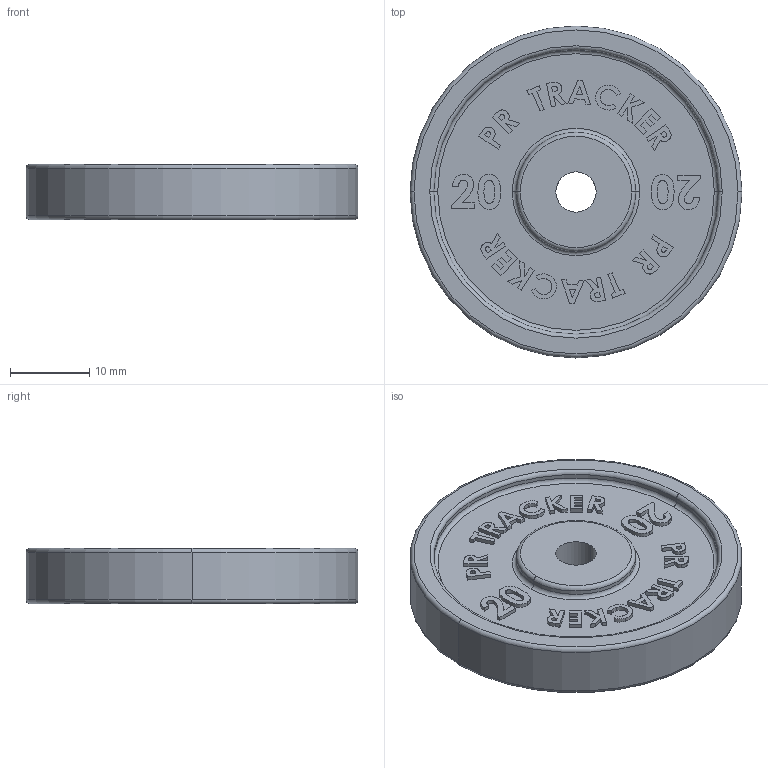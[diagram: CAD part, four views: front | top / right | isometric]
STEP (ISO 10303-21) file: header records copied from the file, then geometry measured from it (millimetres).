
FILE_DESCRIPTION (( 'STEP AP214' ), '1' );
FILE_NAME ('20.STEP', '2024-06-19T14:16:38', ( '' ), ( '' ), 'SwSTEP 2.0', 'SolidWorks 2022', '' );
FILE_SCHEMA (( 'AUTOMOTIVE_DESIGN' ));
Length unit declared in the file: millimetre
Products named in the file (1): 20
Bounding box: 42 x 42 x 7 mm (x, y, z)
Volume: 7116 mm3; surface area: 4365 mm2
Topology: 1 solids, 1 shells, 638 faces, 1672 edges, 1108 vertices
Faces by surface type: plane 438, bspline 168, torus 20, cylinder 12
Entity records: 29790 total; most frequent: CARTESIAN_POINT 15107, ORIENTED_EDGE 3344, DIRECTION 2342, EDGE_CURVE 1672, VECTOR 1272, LINE 1272, VERTEX_POINT 1108, EDGE_LOOP 712
